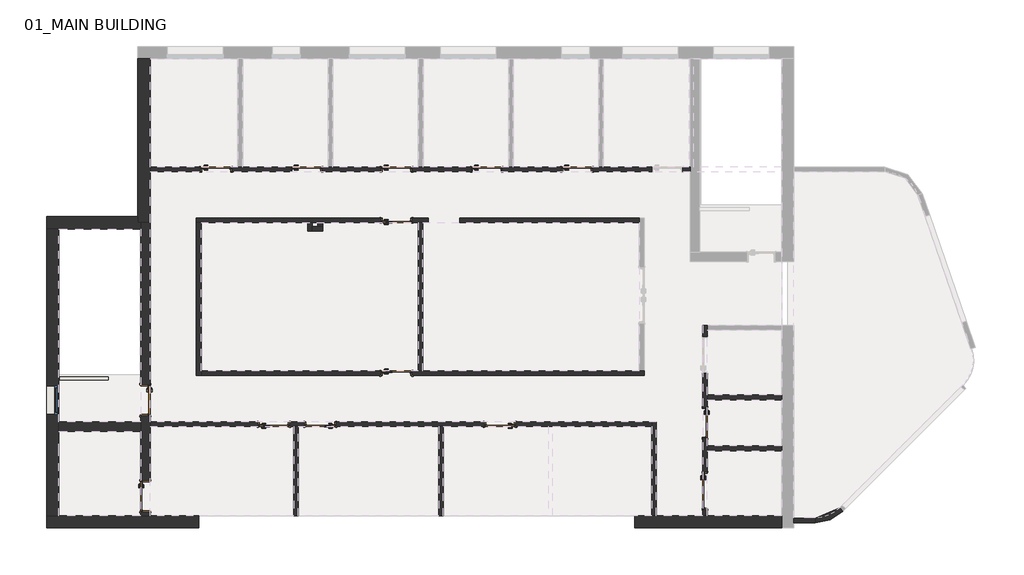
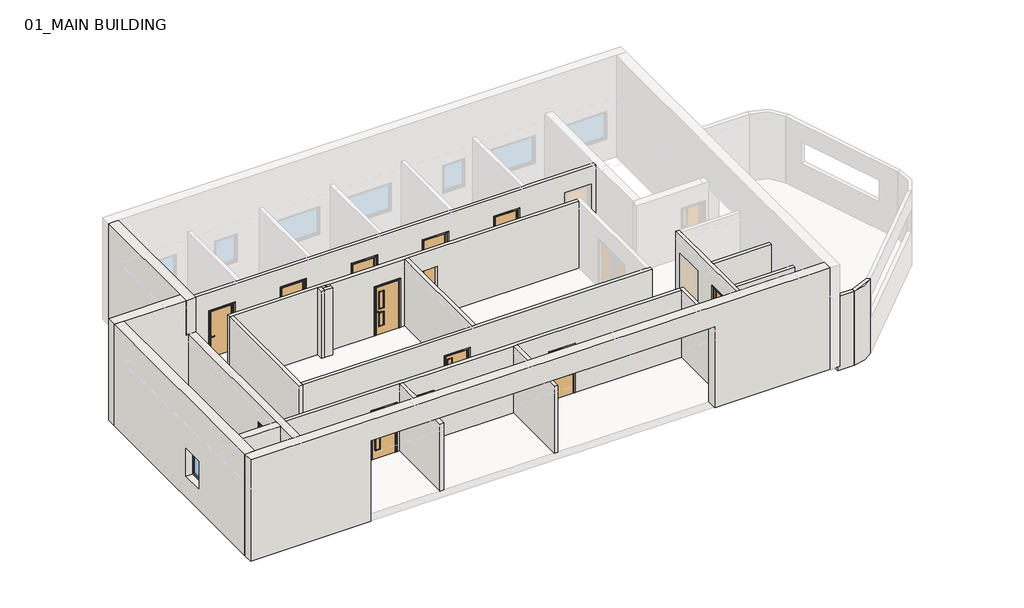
# One storey, part 1 of 2: 24 walls, 14 doors, 1 window.
"""IFC4 building model written with IfcOpenShell, lengths in millimetres."""

from ifc_helpers import new_model, si_unit, point, frame, frame_2d, origin, place, context, project, spatial, polyline, circle_curve, trimmed, segment, composite_curve, outline, extrude, faceted_brep, transform, mapped, element, save
from components import doors_intsgl_1_1010x2110mm_12a6edaf, doors_intsgl_1_1010x2110mm_5517da8e, doors_intsgl_1_1010x2110mm_5eebe40c, doors_intsgl_1_1200x2110mm_07b1b6db, doors_intsgl_3_1010x2110mm_4cc0f6b2, doors_intsgl_3_1010x2110mm_0dcaffd3, windows_concept_plain_sgl_910x1210mm_ef0b7ad2

model = new_model("IFC4")

# Units and contexts
model_context = context("Model", 3, world=origin())
ifc_project = project(units=[si_unit("LENGTHUNIT", "METRE", prefix="MILLI")], contexts=[model_context])

# Site, building, storey
site = spatial("IfcSite", under=ifc_project)
building = spatial("IfcBuilding", under=site)
storey = spatial("IfcBuildingStorey", under=building, Name="01_MAIN BUILDING", Elevation=4500.0)

# Doors
placement = place(None, origin())
doors_intsgl_1_1010x2110mm_shape = doors_intsgl_1_1010x2110mm_12a6edaf(model_context)
element("IfcDoor", 1, ObjectType="Doors_IntSgl_1 : 1010x2110mm", at=placement, inside=storey, context=model_context, shape_type="MappedRepresentation", body=[
    mapped(doors_intsgl_1_1010x2110mm_shape, transform((427458.8921169, -385124.0026386, 4500.0), x_axis=(1.0, 0.0, 0.0), y_axis=(0.0, 1.0, 0.0), z_axis=(0.0, 0.0, 1.0))),
])
element("IfcDoor", 2, ObjectType="Doors_IntSgl_1 : 1010x2110mm", at=placement, inside=storey, context=model_context, shape_type="MappedRepresentation", body=[
    mapped(doors_intsgl_1_1010x2110mm_shape, transform((430375.4635455, -385124.0026386, 4500.0), x_axis=(1.0, 0.0, 0.0), y_axis=(0.0, 1.0, 0.0), z_axis=(0.0, 0.0, 1.0))),
])
element("IfcDoor", 3, ObjectType="Doors_IntSgl_1 : 1010x2110mm", at=placement, inside=storey, context=model_context, shape_type="MappedRepresentation", body=[
    mapped(doors_intsgl_1_1010x2110mm_shape, transform((433292.034974, -385124.0026386, 4500.0), x_axis=(1.0, 0.0, 0.0), y_axis=(0.0, 1.0, 0.0), z_axis=(0.0, 0.0, 1.0))),
])
element("IfcDoor", 4, ObjectType="Doors_IntSgl_1 : 1010x2110mm", at=placement, inside=storey, context=model_context, shape_type="MappedRepresentation", body=[
    mapped(doors_intsgl_1_1010x2110mm_shape, transform((436208.6064026, -385124.0026386, 4500.0), x_axis=(1.0, 0.0, 0.0), y_axis=(0.0, 1.0, 0.0), z_axis=(0.0, 0.0, 1.0))),
])
element("IfcDoor", 5, ObjectType="Doors_IntSgl_1 : 1010x2110mm", at=placement, inside=storey, context=model_context, shape_type="MappedRepresentation", body=[
    mapped(doors_intsgl_1_1010x2110mm_shape, transform((439125.1778312, -385124.0026386, 4500.0), x_axis=(1.0, 0.0, 0.0), y_axis=(0.0, 1.0, 0.0), z_axis=(0.0, 0.0, 1.0))),
])
element("IfcDoor", 6, ObjectType="Doors_IntSgl_1 : 1010x2110mm", at=placement, inside=storey, context=model_context, shape_type="MappedRepresentation", body=[
    mapped(doors_intsgl_1_1010x2110mm_shape, transform((443263.3206883, -393328.0026386, 4500.0), x_axis=(0.0, -1.0, 0.0), y_axis=(1.0, 0.0, 0.0), z_axis=(0.0, 0.0, 1.0))),
])
element("IfcDoor", 7, ObjectType="Doors_IntSgl_1 : 1010x2110mm", at=placement, inside=storey, context=model_context, shape_type="MappedRepresentation", body=[
    mapped(doors_intsgl_1_1010x2110mm_shape, transform((436633.3206883, -393374.0026386, 4500.0), x_axis=(-1.0, 0.0, 0.0), y_axis=(0.0, -1.0, 0.0), z_axis=(0.0, 0.0, 1.0))),
])
doors_intsgl_1_1010x2110mm_2_shape = doors_intsgl_1_1010x2110mm_5517da8e(model_context)
element("IfcDoor", 8, ObjectType="Doors_IntSgl_1 : 1010x2110mm", at=placement, inside=storey, context=model_context, shape_type="MappedRepresentation", body=[
    mapped(doors_intsgl_1_1010x2110mm_2_shape, transform((425167.3206883, -392594.0026386, 4500.0), x_axis=(0.0, -1.0, 0.0), y_axis=(1.0, 0.0, 0.0), z_axis=(0.0, 0.0, 1.0))),
])
doors_intsgl_1_1010x2110mm_3_shape = doors_intsgl_1_1010x2110mm_5eebe40c(model_context)
element("IfcDoor", 9, ObjectType="Doors_IntSgl_1 : 1010x2110mm", at=placement, inside=storey, context=model_context, shape_type="MappedRepresentation", body=[
    mapped(doors_intsgl_1_1010x2110mm_3_shape, transform((425167.3206883, -395704.0026386, 4500.0), x_axis=(0.0, -1.0, 0.0), y_axis=(1.0, 0.0, 0.0), z_axis=(0.0, 0.0, 1.0))),
])
doors_intsgl_1_1200x2110mm_shape = doors_intsgl_1_1200x2110mm_07b1b6db(model_context)
element("IfcDoor", 10, ObjectType="Doors_IntSgl_1 : 1200x2110mm", at=placement, inside=storey, context=model_context, shape_type="MappedRepresentation", body=[
    mapped(doors_intsgl_1_1200x2110mm_shape, transform((443263.3206883, -395528.0026386, 4500.0), x_axis=(0.0, -1.0, 0.0), y_axis=(1.0, 0.0, 0.0), z_axis=(0.0, 0.0, 1.0))),
])
doors_intsgl_3_1010x2110mm_shape = doors_intsgl_3_1010x2110mm_4cc0f6b2(model_context)
element("IfcDoor", 11, ObjectType="Doors_IntSgl_3 : 1010x2110mm", at=placement, inside=storey, context=model_context, shape_type="MappedRepresentation", body=[
    mapped(doors_intsgl_3_1010x2110mm_shape, transform((430824.5429107, -393374.0026386, 4500.0), x_axis=(-1.0, 0.0, 0.0), y_axis=(0.0, -1.0, 0.0), z_axis=(0.0, 0.0, 1.0))),
])
doors_intsgl_3_1010x2110mm_2_shape = doors_intsgl_3_1010x2110mm_0dcaffd3(model_context)
element("IfcDoor", 12, ObjectType="Doors_IntSgl_3 : 1010x2110mm", at=placement, inside=storey, context=model_context, shape_type="MappedRepresentation", body=[
    mapped(doors_intsgl_3_1010x2110mm_2_shape, transform((429323.3206883, -393374.0026386, 4500.0), x_axis=(1.0, 0.0, 0.0), y_axis=(0.0, 1.0, 0.0), z_axis=(0.0, 0.0, 1.0))),
])
element("IfcDoor", 13, ObjectType="Doors_IntSgl_3 : 1010x2110mm", at=placement, inside=storey, context=model_context, shape_type="MappedRepresentation", body=[
    mapped(doors_intsgl_3_1010x2110mm_2_shape, transform((433287.3206883, -386774.0026386, 4500.0), x_axis=(1.0, 0.0, 0.0), y_axis=(0.0, 1.0, 0.0), z_axis=(0.0, 0.0, 1.0))),
])
element("IfcDoor", 14, ObjectType="Doors_IntSgl_3 : 1010x2110mm", at=placement, inside=storey, context=model_context, shape_type="MappedRepresentation", body=[
    mapped(doors_intsgl_3_1010x2110mm_shape, transform((433287.3206883, -391724.0026386, 4500.0), x_axis=(1.0, 0.0, 0.0), y_axis=(0.0, 1.0, 0.0), z_axis=(0.0, 0.0, 1.0))),
])

# Walls
element("IfcWall", 15, ObjectType="Wall_Exterior_WSUK", at=placement, inside=storey, context=model_context, shape_type="Brep", body=[
    faceted_brep([(421974.3206883, -396328.0026386, 8900.0), (422376.3206883, -396328.0026386, 8900.0), (445738.3206883, -396328.0026386, 8900.0), (445738.3206883, -396328.0026386, 4500.0), (443338.3206883, -396328.0026386, 4500.0), (443188.3206883, -396328.0026386, 4500.0), (441688.3206883, -396328.0026386, 4500.0), (441538.3206883, -396328.0026386, 4500.0), (440997.3206883, -396328.0026386, 4500.0), (440997.3206883, -396328.0026386, 8000.0), (426897.3206883, -396328.0026386, 8000.0), (426897.3206883, -396328.0026386, 4500.0), (425322.3206883, -396328.0026386, 4500.0), (425012.3206883, -396328.0026386, 4500.0), (422376.3206883, -396328.0026386, 4500.0), (421974.3206883, -396328.0026386, 4500.0), (445738.3206883, -396730.0026386, 8900.0), (421974.3206883, -396730.0026386, 8900.0), (421974.3206883, -396730.0026386, 4500.0), (426897.3206883, -396730.0026386, 4500.0), (426897.3206883, -396730.0026386, 8000.0), (440997.3206883, -396730.0026386, 8000.0), (440997.3206883, -396730.0026386, 4500.0), (445738.3206883, -396730.0026386, 4500.0)], [[[0, 1, 2, 3, 4, 5, 6, 7, 8, 9, 10, 11, 12, 13, 14, 15]], [[16, 17, 18, 19, 20, 21, 22, 23]], [[3, 23, 22, 8, 7, 6, 5, 4]], [[18, 15, 14, 13, 12, 11, 19]], [[2, 1, 0, 17, 16]], [[2, 16, 23, 3]], [[0, 15, 18, 17]], [[21, 9, 8, 22]], [[9, 21, 20, 10]], [[10, 20, 19, 11]]]),
])
element("IfcWall", 16, ObjectType="Wall_Exterior_WSUK", at=placement, inside=storey, context=model_context, shape_type="Brep", body=[
    faceted_brep([(424920.3206883, -381550.0026386, 8900.0), (424920.3206883, -381550.0026386, 4500.0), (424920.3206883, -386647.0026386, 4500.0), (424920.3206883, -386848.0026386, 4500.0), (424920.3206883, -386848.0026386, 7400.0), (424920.3206883, -387049.0026386, 7400.0), (424920.3206883, -387049.0026386, 8900.0), (424920.3206883, -386647.0026386, 8900.0), (425322.3206883, -381550.0026386, 4500.0), (425322.3206883, -381550.0026386, 8900.0), (425322.3206883, -387049.0026386, 8900.0), (425322.3206883, -387049.0026386, 7400.0), (425322.3206883, -386848.0026386, 7400.0), (425322.3206883, -386848.0026386, 4500.0), (425322.3206883, -385199.0026386, 4500.0), (425322.3206883, -385049.0026386, 4500.0), (425012.3206883, -381550.0026386, 4500.0), (425012.3206883, -386848.0026386, 4500.0), (425012.3206883, -386848.0026386, 7400.0), (425012.3206883, -387049.0026386, 7400.0)], [[[0, 1, 2, 3, 4, 5, 6, 7]], [[8, 9, 10, 11, 12, 13, 14, 15]], [[3, 2, 1, 16, 8, 15, 14, 13, 17]], [[0, 7, 6, 10, 9]], [[4, 3, 17, 13, 12, 18]], [[11, 19, 5, 4, 18, 12]], [[6, 5, 19, 11, 10]], [[0, 9, 8, 16, 1]]]),
])
element("IfcWall", 17, ObjectType="Wall_Exterior_WSUK", at=placement, inside=storey, context=model_context, shape_type="Brep", body=[
    faceted_brep([(424920.3206883, -386647.0026386, 4500.0), (421974.3206883, -386647.0026386, 4500.0), (421974.3206883, -386647.0026386, 8900.0), (424920.3206883, -386647.0026386, 8900.0), (424920.3206883, -386647.0026386, 7400.0), (425012.3206883, -387049.0026386, 4500.0), (425012.3206883, -387049.0026386, 7400.0), (424920.3206883, -387049.0026386, 7400.0), (424920.3206883, -387049.0026386, 8900.0), (422376.3206883, -387049.0026386, 8900.0), (421974.3206883, -387049.0026386, 8900.0), (421974.3206883, -387049.0026386, 4500.0), (422376.3206883, -387049.0026386, 4500.0), (424920.3206883, -386848.0026386, 4500.0), (425012.3206883, -386848.0026386, 4500.0), (424920.3206883, -386848.0026386, 7400.0), (425012.3206883, -386848.0026386, 7400.0)], [[[0, 1, 2, 3, 4]], [[5, 6, 7, 8, 9, 10, 11, 12]], [[1, 0, 13, 14, 5, 12, 11]], [[3, 2, 10, 9, 8]], [[2, 1, 11, 10]], [[15, 7, 6, 16]], [[0, 4, 15, 13]], [[15, 16, 14, 13]], [[16, 6, 5, 14]], [[4, 3, 8, 7, 15]]]),
])
element("IfcWall", 18, ObjectType="Wall_Exterior_WSUK", at=placement, inside=storey, context=model_context, shape_type="Brep", body=[
    faceted_brep([(421974.3206883, -387049.0026386, 4500.0), (421974.3206883, -396328.0026386, 4500.0), (421974.3206883, -396328.0026386, 8900.0), (421974.3206883, -387049.0026386, 8900.0), (421974.3206883, -392139.0026386, 6610.0), (421974.3206883, -393049.0026386, 6610.0), (421974.3206883, -393049.0026386, 5400.0), (421974.3206883, -392139.0026386, 5400.0), (422376.3206883, -387049.0026386, 4500.0), (422376.3206883, -387049.0026386, 8900.0), (422376.3206883, -396328.0026386, 8900.0), (422376.3206883, -396328.0026386, 4500.0), (422376.3206883, -393609.0026386, 4500.0), (422376.3206883, -393299.0026386, 4500.0), (422376.3206883, -392139.0026386, 6610.0), (422376.3206883, -392139.0026386, 5400.0), (422376.3206883, -393049.0026386, 5400.0), (422376.3206883, -393049.0026386, 6610.0)], [[[0, 1, 2, 3], [4, 5, 6, 7]], [[8, 9, 10, 11, 12, 13], [14, 15, 16, 17]], [[1, 0, 8, 13, 12, 11]], [[3, 2, 10, 9]], [[0, 3, 9, 8]], [[15, 14, 4, 7]], [[16, 15, 7, 6]], [[17, 16, 6, 5]], [[14, 17, 5, 4]], [[2, 1, 11, 10]]]),
])
element("IfcWall", 19, ObjectType="Wall_Interior_WSUK", at=placement, inside=storey, context=model_context, shape_type="Brep", body=[
    faceted_brep([(442792.3206883, -385199.0026386, 7400.0), (425322.3206883, -385199.0026386, 7400.0), (425322.3206883, -385199.0026386, 4500.0), (426953.8921169, -385199.0026386, 4500.0), (426953.8921169, -385199.0026386, 6610.0), (427963.8921169, -385199.0026386, 6610.0), (427963.8921169, -385199.0026386, 4500.0), (429870.4635455, -385199.0026386, 4500.0), (429870.4635455, -385199.0026386, 6610.0), (430880.4635455, -385199.0026386, 6610.0), (430880.4635455, -385199.0026386, 4500.0), (432787.034974, -385199.0026386, 4500.0), (432787.034974, -385199.0026386, 6610.0), (433797.034974, -385199.0026386, 6610.0), (433797.034974, -385199.0026386, 4500.0), (435703.6064026, -385199.0026386, 4500.0), (435703.6064026, -385199.0026386, 6610.0), (436713.6064026, -385199.0026386, 6610.0), (436713.6064026, -385199.0026386, 4500.0), (438620.1778312, -385199.0026386, 4500.0), (438620.1778312, -385199.0026386, 6610.0), (439630.1778312, -385199.0026386, 6610.0), (439630.1778312, -385199.0026386, 4500.0), (441536.7492598, -385199.0026386, 4500.0), (441536.7492598, -385199.0026386, 6610.0), (442546.7492598, -385199.0026386, 6610.0), (442546.7492598, -385199.0026386, 4500.0), (442792.3206883, -385199.0026386, 4500.0), (425322.3206883, -385049.0026386, 7400.0), (428163.8921169, -385049.0026386, 7400.0), (428313.8921169, -385049.0026386, 7400.0), (431080.4635455, -385049.0026386, 7400.0), (431230.4635455, -385049.0026386, 7400.0), (433997.034974, -385049.0026386, 7400.0), (434147.034974, -385049.0026386, 7400.0), (436913.6064026, -385049.0026386, 7400.0), (437063.6064026, -385049.0026386, 7400.0), (439830.1778312, -385049.0026386, 7400.0), (439980.1778312, -385049.0026386, 7400.0), (442792.3206883, -385049.0026386, 7400.0), (442792.3206883, -385049.0026386, 4500.0), (442546.7492598, -385049.0026386, 4500.0), (442546.7492598, -385049.0026386, 6610.0), (441536.7492598, -385049.0026386, 6610.0), (441536.7492598, -385049.0026386, 4500.0), (439980.1778312, -385049.0026386, 4500.0), (439830.1778312, -385049.0026386, 4500.0), (439630.1778312, -385049.0026386, 4500.0), (439630.1778312, -385049.0026386, 6610.0), (438620.1778312, -385049.0026386, 6610.0), (438620.1778312, -385049.0026386, 4500.0), (437063.6064026, -385049.0026386, 4500.0), (436913.6064026, -385049.0026386, 4500.0), (436713.6064026, -385049.0026386, 4500.0), (436713.6064026, -385049.0026386, 6610.0), (435703.6064026, -385049.0026386, 6610.0), (435703.6064026, -385049.0026386, 4500.0), (434147.034974, -385049.0026386, 4500.0), (433997.034974, -385049.0026386, 4500.0), (433797.034974, -385049.0026386, 4500.0), (433797.034974, -385049.0026386, 6610.0), (432787.034974, -385049.0026386, 6610.0), (432787.034974, -385049.0026386, 4500.0), (431230.4635455, -385049.0026386, 4500.0), (431080.4635455, -385049.0026386, 4500.0), (430880.4635455, -385049.0026386, 4500.0), (430880.4635455, -385049.0026386, 6610.0), (429870.4635455, -385049.0026386, 6610.0), (429870.4635455, -385049.0026386, 4500.0), (428313.8921169, -385049.0026386, 4500.0), (428163.8921169, -385049.0026386, 4500.0), (427963.8921169, -385049.0026386, 4500.0), (427963.8921169, -385049.0026386, 6610.0), (426953.8921169, -385049.0026386, 6610.0), (426953.8921169, -385049.0026386, 4500.0), (425322.3206883, -385049.0026386, 4500.0)], [[[0, 1, 2, 3, 4, 5, 6, 7, 8, 9, 10, 11, 12, 13, 14, 15, 16, 17, 18, 19, 20, 21, 22, 23, 24, 25, 26, 27]], [[28, 29, 30, 31, 32, 33, 34, 35, 36, 37, 38, 39, 40, 41, 42, 43, 44, 45, 46, 47, 48, 49, 50, 51, 52, 53, 54, 55, 56, 57, 58, 59, 60, 61, 62, 63, 64, 65, 66, 67, 68, 69, 70, 71, 72, 73, 74, 75]], [[3, 2, 75, 74]], [[6, 71, 70, 69, 68, 7]], [[10, 65, 64, 63, 62, 11]], [[14, 59, 58, 57, 56, 15]], [[18, 53, 52, 51, 50, 19]], [[22, 47, 46, 45, 44, 23]], [[40, 27, 26, 41]], [[1, 0, 39, 38, 37, 36, 35, 34, 33, 32, 31, 30, 29, 28]], [[5, 72, 71, 6]], [[72, 5, 4, 73]], [[73, 4, 3, 74]], [[9, 66, 65, 10]], [[66, 9, 8, 67]], [[67, 8, 7, 68]], [[13, 60, 59, 14]], [[60, 13, 12, 61]], [[61, 12, 11, 62]], [[17, 54, 53, 18]], [[54, 17, 16, 55]], [[55, 16, 15, 56]], [[21, 48, 47, 22]], [[48, 21, 20, 49]], [[49, 20, 19, 50]], [[2, 1, 28, 75]], [[25, 42, 41, 26]], [[42, 25, 24, 43]], [[43, 24, 23, 44]], [[0, 27, 40, 39]]]),
])
element("IfcWall", 20, ObjectType="Wall_Interior_WSUK", at=placement, inside=storey, context=model_context, shape_type="Brep", body=[
    faceted_brep([(443188.3206883, -396328.0026386, 7400.0), (443188.3206883, -390178.0026386, 7400.0), (443188.3206883, -390178.0026386, 4500.0), (443188.3206883, -390528.0026386, 4500.0), (443188.3206883, -390528.0026386, 6610.0), (443188.3206883, -391728.0026386, 6610.0), (443188.3206883, -391728.0026386, 4500.0), (443188.3206883, -392823.0026386, 4500.0), (443188.3206883, -392823.0026386, 6610.0), (443188.3206883, -393833.0026386, 6610.0), (443188.3206883, -393833.0026386, 4500.0), (443188.3206883, -394928.0026386, 4500.0), (443188.3206883, -394928.0026386, 6610.0), (443188.3206883, -396128.0026386, 6610.0), (443188.3206883, -396128.0026386, 4500.0), (443188.3206883, -396328.0026386, 4500.0), (443338.3206883, -390178.0026386, 7400.0), (443338.3206883, -390328.0026386, 7400.0), (443338.3206883, -392428.0026386, 7400.0), (443338.3206883, -392578.0026386, 7400.0), (443338.3206883, -394078.0026386, 7400.0), (443338.3206883, -394228.0026386, 7400.0), (443338.3206883, -396328.0026386, 7400.0), (443338.3206883, -396328.0026386, 4500.0), (443338.3206883, -396128.0026386, 4500.0), (443338.3206883, -396128.0026386, 6610.0), (443338.3206883, -394928.0026386, 6610.0), (443338.3206883, -394928.0026386, 4500.0), (443338.3206883, -394228.0026386, 4500.0), (443338.3206883, -394078.0026386, 4500.0), (443338.3206883, -393833.0026386, 4500.0), (443338.3206883, -393833.0026386, 6610.0), (443338.3206883, -392823.0026386, 6610.0), (443338.3206883, -392823.0026386, 4500.0), (443338.3206883, -392578.0026386, 4500.0), (443338.3206883, -392428.0026386, 4500.0), (443338.3206883, -391728.0026386, 4500.0), (443338.3206883, -391728.0026386, 6610.0), (443338.3206883, -390528.0026386, 6610.0), (443338.3206883, -390528.0026386, 4500.0), (443338.3206883, -390328.0026386, 4500.0), (443338.3206883, -390178.0026386, 4500.0)], [[[0, 1, 2, 3, 4, 5, 6, 7, 8, 9, 10, 11, 12, 13, 14, 15]], [[16, 17, 18, 19, 20, 21, 22, 23, 24, 25, 26, 27, 28, 29, 30, 31, 32, 33, 34, 35, 36, 37, 38, 39, 40, 41]], [[2, 41, 40, 39, 3]], [[23, 15, 14, 24]], [[6, 36, 35, 34, 33, 7]], [[10, 30, 29, 28, 27, 11]], [[1, 0, 22, 21, 20, 19, 18, 17, 16]], [[2, 1, 16, 41]], [[0, 15, 23, 22]], [[38, 4, 3, 39]], [[4, 38, 37, 5]], [[5, 37, 36, 6]], [[9, 31, 30, 10]], [[31, 9, 8, 32]], [[32, 8, 7, 33]], [[13, 25, 24, 14]], [[25, 13, 12, 26]], [[26, 12, 11, 27]]]),
])
element("IfcWall", 21, ObjectType="Wall_Interior_WSUK", at=placement, inside=storey, context=model_context, shape_type="SweptSolid", body=[
    extrude(outline(polyline([(445738.3206883, -394228.0026386), (443338.3206883, -394228.0026386), (443338.3206883, -394078.0026386), (445738.3206883, -394078.0026386), (445738.3206883, -394228.0026386)])), frame((0.0, 0.0, 4500.0), z_axis=(0.0, 0.0, 1.0), x_axis=(1.0, 0.0, 0.0)), (0.0, 0.0, 1.0), 2900.0),
])
element("IfcWall", 22, ObjectType="Wall_Interior_WSUK", at=placement, inside=storey, context=model_context, shape_type="SweptSolid", body=[
    extrude(outline(polyline([(445738.3206883, -392578.0026386), (443338.3206883, -392578.0026386), (443338.3206883, -392428.0026386), (445738.3206883, -392428.0026386), (445738.3206883, -392578.0026386)])), frame((0.0, 0.0, 4500.0), z_axis=(0.0, 0.0, 1.0), x_axis=(1.0, 0.0, 0.0)), (0.0, 0.0, 1.0), 2900.0),
])
element("IfcWall", 23, ObjectType="Wall_Interior_WSUK", at=placement, inside=storey, context=model_context, shape_type="Brep", body=[
    faceted_brep([(441538.3206883, -393449.0026386, 7400.0), (434802.8762438, -393449.0026386, 7400.0), (434652.8762438, -393449.0026386, 7400.0), (430119.5429107, -393449.0026386, 7400.0), (429969.5429107, -393449.0026386, 7400.0), (425322.3206883, -393449.0026386, 7400.0), (425322.3206883, -393449.0026386, 4500.0), (428818.3206883, -393449.0026386, 4500.0), (428818.3206883, -393449.0026386, 6610.0), (429828.3206883, -393449.0026386, 6610.0), (429828.3206883, -393449.0026386, 4500.0), (429969.5429107, -393449.0026386, 4500.0), (430119.5429107, -393449.0026386, 4500.0), (430319.5429107, -393449.0026386, 4500.0), (430319.5429107, -393449.0026386, 6610.0), (431329.5429107, -393449.0026386, 6610.0), (431329.5429107, -393449.0026386, 4500.0), (434652.8762438, -393449.0026386, 4500.0), (434802.8762438, -393449.0026386, 4500.0), (436128.3206883, -393449.0026386, 4500.0), (436128.3206883, -393449.0026386, 6610.0), (437138.3206883, -393449.0026386, 6610.0), (437138.3206883, -393449.0026386, 4500.0), (441538.3206883, -393449.0026386, 4500.0), (425322.3206883, -393299.0026386, 7400.0), (441538.3206883, -393299.0026386, 7400.0), (441538.3206883, -393299.0026386, 4500.0), (437138.3206883, -393299.0026386, 4500.0), (437138.3206883, -393299.0026386, 6610.0), (436128.3206883, -393299.0026386, 6610.0), (436128.3206883, -393299.0026386, 4500.0), (431329.5429107, -393299.0026386, 4500.0), (431329.5429107, -393299.0026386, 6610.0), (430319.5429107, -393299.0026386, 6610.0), (430319.5429107, -393299.0026386, 4500.0), (429828.3206883, -393299.0026386, 4500.0), (429828.3206883, -393299.0026386, 6610.0), (428818.3206883, -393299.0026386, 6610.0), (428818.3206883, -393299.0026386, 4500.0), (425322.3206883, -393299.0026386, 4500.0)], [[[0, 1, 2, 3, 4, 5, 6, 7, 8, 9, 10, 11, 12, 13, 14, 15, 16, 17, 18, 19, 20, 21, 22, 23]], [[24, 25, 26, 27, 28, 29, 30, 31, 32, 33, 34, 35, 36, 37, 38, 39]], [[26, 23, 22, 27]], [[30, 19, 18, 17, 16, 31]], [[34, 13, 12, 11, 10, 35]], [[6, 39, 38, 7]], [[5, 4, 3, 2, 1, 0, 25, 24]], [[0, 23, 26, 25]], [[29, 20, 19, 30]], [[20, 29, 28, 21]], [[21, 28, 27, 22]], [[33, 14, 13, 34]], [[14, 33, 32, 15]], [[15, 32, 31, 16]], [[9, 36, 35, 10]], [[36, 9, 8, 37]], [[37, 8, 7, 38]], [[6, 5, 24, 39]]]),
])
element("IfcWall", 24, ObjectType="Wall_Interior_WSUK", at=placement, inside=storey, context=model_context, shape_type="Brep", body=[
    faceted_brep([(441538.3206883, -393299.0026386, 4500.0), (441538.3206883, -393449.0026386, 4500.0), (441538.3206883, -396328.0026386, 4500.0), (441538.3206883, -396328.0026386, 7400.0), (441538.3206883, -393449.0026386, 7400.0), (441538.3206883, -393299.0026386, 7400.0), (441688.3206883, -393299.0026386, 4500.0), (441688.3206883, -393299.0026386, 7400.0), (441688.3206883, -396328.0026386, 7400.0), (441688.3206883, -396328.0026386, 4500.0)], [[[0, 1, 2, 3, 4, 5]], [[6, 7, 8, 9]], [[2, 1, 0, 6, 9]], [[5, 4, 3, 8, 7]], [[0, 5, 7, 6]], [[3, 2, 9, 8]]]),
])
element("IfcWall", 25, ObjectType="Wall_Interior_WSUK", at=placement, inside=storey, context=model_context, shape_type="SweptSolid", body=[
    extrude(outline(polyline([(429969.5429107, -396328.0026386), (429969.5429107, -393449.0026386), (430119.5429107, -393449.0026386), (430119.5429107, -396328.0026386), (429969.5429107, -396328.0026386)])), frame((0.0, 0.0, 4500.0), z_axis=(0.0, 0.0, 1.0), x_axis=(1.0, 0.0, 0.0)), (0.0, 0.0, 1.0), 2900.0),
])
element("IfcWall", 26, ObjectType="Wall_Interior_WSUK", at=placement, inside=storey, context=model_context, shape_type="SweptSolid", body=[
    extrude(outline(polyline([(434652.8762438, -396328.0026386), (434652.8762438, -393449.0026386), (434802.8762438, -393449.0026386), (434802.8762438, -396328.0026386), (434652.8762438, -396328.0026386)])), frame((0.0, 0.0, 4500.0), z_axis=(0.0, 0.0, 1.0), x_axis=(1.0, 0.0, 0.0)), (0.0, 0.0, 1.0), 2900.0),
])
element("IfcWall", 27, ObjectType="Wall_Interior_WSUK", at=placement, inside=storey, context=model_context, shape_type="Brep", body=[
    faceted_brep([(441142.3206883, -386849.0026386, 7400.0), (434142.3206883, -386849.0026386, 7400.0), (433992.3206883, -386849.0026386, 7400.0), (430898.3206883, -386849.0026386, 7400.0), (430748.3206883, -386849.0026386, 7400.0), (430568.3206883, -386849.0026386, 7400.0), (430418.3206883, -386849.0026386, 7400.0), (426972.3206883, -386849.0026386, 7400.0), (426822.3206883, -386849.0026386, 7400.0), (426822.3206883, -386849.0026386, 4500.0), (426972.3206883, -386849.0026386, 4500.0), (430418.3206883, -386849.0026386, 4500.0), (430568.3206883, -386849.0026386, 4500.0), (430748.3206883, -386849.0026386, 4500.0), (430898.3206883, -386849.0026386, 4500.0), (432782.3206883, -386849.0026386, 4500.0), (432782.3206883, -386849.0026386, 6610.0), (433792.3206883, -386849.0026386, 6610.0), (433792.3206883, -386849.0026386, 4500.0), (433992.3206883, -386849.0026386, 4500.0), (434142.3206883, -386849.0026386, 4500.0), (434322.3206883, -386849.0026386, 4500.0), (434322.3206883, -386849.0026386, 6610.0), (435332.3206883, -386849.0026386, 6610.0), (435332.3206883, -386849.0026386, 4500.0), (441142.3206883, -386849.0026386, 4500.0), (426822.3206883, -386699.0026386, 7400.0), (441142.3206883, -386699.0026386, 7400.0), (441142.3206883, -386699.0026386, 4500.0), (435332.3206883, -386699.0026386, 4500.0), (435332.3206883, -386699.0026386, 6610.0), (434322.3206883, -386699.0026386, 6610.0), (434322.3206883, -386699.0026386, 4500.0), (433792.3206883, -386699.0026386, 4500.0), (433792.3206883, -386699.0026386, 6610.0), (432782.3206883, -386699.0026386, 6610.0), (432782.3206883, -386699.0026386, 4500.0), (426822.3206883, -386699.0026386, 4500.0)], [[[0, 1, 2, 3, 4, 5, 6, 7, 8, 9, 10, 11, 12, 13, 14, 15, 16, 17, 18, 19, 20, 21, 22, 23, 24, 25]], [[26, 27, 28, 29, 30, 31, 32, 33, 34, 35, 36, 37]], [[9, 37, 36, 15, 14, 13, 12, 11, 10]], [[28, 25, 24, 29]], [[18, 33, 32, 21, 20, 19]], [[8, 7, 6, 5, 4, 3, 2, 1, 0, 27, 26]], [[9, 8, 26, 37]], [[0, 25, 28, 27]], [[18, 17, 34, 33]], [[17, 16, 35, 34]], [[16, 15, 36, 35]], [[31, 22, 21, 32]], [[22, 31, 30, 23]], [[23, 30, 29, 24]]]),
])
element("IfcWall", 28, ObjectType="Wall_Interior_WSUK", at=placement, inside=storey, context=model_context, shape_type="Brep", body=[
    faceted_brep([(426972.3206883, -391799.0026386, 4500.0), (426972.3206883, -391649.0026386, 4500.0), (426972.3206883, -386849.0026386, 4500.0), (426972.3206883, -386849.0026386, 7400.0), (426972.3206883, -391649.0026386, 7400.0), (426972.3206883, -391799.0026386, 7400.0), (426822.3206883, -391799.0026386, 4500.0), (426822.3206883, -391799.0026386, 7400.0), (426822.3206883, -386849.0026386, 7400.0), (426822.3206883, -386849.0026386, 4500.0)], [[[0, 1, 2, 3, 4, 5]], [[6, 7, 8, 9]], [[2, 1, 0, 6, 9]], [[5, 4, 3, 8, 7]], [[3, 2, 9, 8]], [[0, 5, 7, 6]]]),
])
element("IfcWall", 29, ObjectType="Wall_Interior_WSUK", at=placement, inside=storey, context=model_context, shape_type="SweptSolid", body=[
    extrude(outline(polyline([(433992.3206883, -391649.0026386), (433992.3206883, -386849.0026386), (434142.3206883, -386849.0026386), (434142.3206883, -391649.0026386), (433992.3206883, -391649.0026386)])), frame((0.0, 0.0, 4500.0), z_axis=(0.0, 0.0, 1.0), x_axis=(1.0, 0.0, 0.0)), (0.0, 0.0, 1.0), 2900.0),
])
element("IfcWall", 30, ObjectType="Wall_Interior_WSUK", at=placement, inside=storey, context=model_context, shape_type="Brep", body=[
    faceted_brep([(441292.3206883, -391799.0026386, 7400.0), (426972.3206883, -391799.0026386, 7400.0), (426972.3206883, -391799.0026386, 4500.0), (432782.3206883, -391799.0026386, 4500.0), (432782.3206883, -391799.0026386, 6610.0), (433792.3206883, -391799.0026386, 6610.0), (433792.3206883, -391799.0026386, 4500.0), (441292.3206883, -391799.0026386, 4500.0), (426972.3206883, -391649.0026386, 7400.0), (433992.3206883, -391649.0026386, 7400.0), (434142.3206883, -391649.0026386, 7400.0), (441142.3206883, -391649.0026386, 7400.0), (441292.3206883, -391649.0026386, 7400.0), (441292.3206883, -391649.0026386, 4500.0), (441142.3206883, -391649.0026386, 4500.0), (434142.3206883, -391649.0026386, 4500.0), (433992.3206883, -391649.0026386, 4500.0), (433792.3206883, -391649.0026386, 4500.0), (433792.3206883, -391649.0026386, 6610.0), (432782.3206883, -391649.0026386, 6610.0), (432782.3206883, -391649.0026386, 4500.0), (426972.3206883, -391649.0026386, 4500.0)], [[[0, 1, 2, 3, 4, 5, 6, 7]], [[8, 9, 10, 11, 12, 13, 14, 15, 16, 17, 18, 19, 20, 21]], [[2, 21, 20, 3]], [[13, 7, 6, 17, 16, 15, 14]], [[1, 0, 12, 11, 10, 9, 8]], [[2, 1, 8, 21]], [[0, 7, 13, 12]], [[5, 18, 17, 6]], [[18, 5, 4, 19]], [[19, 4, 3, 20]]]),
])
element("IfcWall", 31, ObjectType="Wall_Exterior_WSUK 2hr", at=placement, inside=storey, context=model_context, shape_type="Brep", body=[
    faceted_brep([(425012.3206883, -396328.0026386, 7400.0), (425012.3206883, -393609.0026386, 7400.0), (425012.3206883, -393299.0026386, 7400.0), (425012.3206883, -387049.0026386, 7400.0), (425012.3206883, -386848.0026386, 7400.0), (425012.3206883, -386848.0026386, 4500.0), (425012.3206883, -387049.0026386, 4500.0), (425012.3206883, -392089.0026386, 4500.0), (425012.3206883, -392089.0026386, 6610.0), (425012.3206883, -393099.0026386, 6610.0), (425012.3206883, -393099.0026386, 4500.0), (425012.3206883, -393299.0026386, 4500.0), (425012.3206883, -393609.0026386, 4500.0), (425012.3206883, -395199.0026386, 4500.0), (425012.3206883, -395199.0026386, 6610.0), (425012.3206883, -396209.0026386, 6610.0), (425012.3206883, -396209.0026386, 4500.0), (425012.3206883, -396328.0026386, 4500.0), (425322.3206883, -386848.0026386, 7400.0), (425322.3206883, -387049.0026386, 7400.0), (425322.3206883, -393299.0026386, 7400.0), (425322.3206883, -393449.0026386, 7400.0), (425322.3206883, -396328.0026386, 7400.0), (425322.3206883, -396328.0026386, 4500.0), (425322.3206883, -396209.0026386, 4500.0), (425322.3206883, -396209.0026386, 6610.0), (425322.3206883, -395199.0026386, 6610.0), (425322.3206883, -395199.0026386, 4500.0), (425322.3206883, -393449.0026386, 4500.0), (425322.3206883, -393299.0026386, 4500.0), (425322.3206883, -393099.0026386, 4500.0), (425322.3206883, -393099.0026386, 6610.0), (425322.3206883, -392089.0026386, 6610.0), (425322.3206883, -392089.0026386, 4500.0), (425322.3206883, -386848.0026386, 4500.0)], [[[0, 1, 2, 3, 4, 5, 6, 7, 8, 9, 10, 11, 12, 13, 14, 15, 16, 17]], [[18, 19, 20, 21, 22, 23, 24, 25, 26, 27, 28, 29, 30, 31, 32, 33, 34]], [[23, 17, 16, 24]], [[5, 34, 33, 7, 6]], [[10, 30, 29, 28, 27, 13, 12, 11]], [[4, 3, 2, 1, 0, 22, 21, 20, 19, 18]], [[5, 4, 18, 34]], [[0, 17, 23, 22]], [[9, 31, 30, 10]], [[31, 9, 8, 32]], [[32, 8, 7, 33]], [[15, 25, 24, 16]], [[25, 15, 14, 26]], [[26, 14, 13, 27]]]),
])
element("IfcWall", 32, ObjectType="Wall_Exterior_WSUK 2hr", at=placement, inside=storey, context=model_context, shape_type="SweptSolid", body=[
    extrude(outline(polyline([(422376.3206883, -393299.0026386), (425012.3206883, -393299.0026386), (425012.3206883, -393609.0026386), (422376.3206883, -393609.0026386), (422376.3206883, -393299.0026386)])), frame((0.0, 0.0, 4500.0), z_axis=(0.0, 0.0, 1.0), x_axis=(1.0, 0.0, 0.0)), (0.0, 0.0, 1.0), 2900.0),
])
element("IfcWall", 33, ObjectType="Wall_Interior_WSUK", at=placement, inside=storey, context=model_context, shape_type="SweptSolid", body=[
    extrude(outline(polyline([(446140.3206883, -396408.0026386), (446821.3938999, -396408.0026386), (446821.3938999, -396558.0026386), (446140.3206883, -396558.0026386), (446140.3206883, -396408.0026386)])), frame((0.0, 0.0, 4200.0), z_axis=(0.0, 0.0, 1.0), x_axis=(1.0, 0.0, 0.0)), (0.0, 0.0, 1.0), 3200.0),
])
element("IfcWall", 34, ObjectType="Wall_Interior_WSUK", at=placement, inside=storey, context=model_context, shape_type="SweptSolid", body=[
    extrude(outline(composite_curve([segment(polyline([(446821.3938999, -396558.0026386), (446821.3938999, -396408.0026386)]), True, "CONTINUOUS"), segment(trimmed(circle_curve(frame_2d((446821.3938999, -395283.0026386)), 1125.0), [point((446821.3938999, -396408.0026386))], [point((447616.8890287, -396078.4977674))], True, "CARTESIAN"), True, "CONTINUOUS"), segment(polyline([(447616.8890287, -396078.4977674), (447722.9550459, -396184.5637846)]), True, "CONTINUOUS"), segment(trimmed(circle_curve(frame_2d((446821.3938999, -395283.0026386)), 1275.0), [point((447722.9550459, -396184.5637846))], [point((446821.3938999, -396558.0026386))], False, "CARTESIAN"), True, "CONTINUOUS")], self_intersect=False)), frame((0.0, 0.0, 4200.0), z_axis=(0.0, 0.0, 1.0), x_axis=(1.0, 0.0, 0.0)), (0.0, 0.0, 1.0), 3200.0),
])
element("IfcWall", 35, ObjectType="Architectural Column Framing", at=placement, inside=storey, context=model_context, shape_type="Brep", body=[
    faceted_brep([(430418.3206883, -386849.0026386, 4500.0), (430418.3206883, -387120.2026386, 4500.0), (430418.3206883, -387120.2026386, 7400.0), (430418.3206883, -386849.0026386, 7400.0), (430568.3206883, -386849.0026386, 4500.0), (430568.3206883, -386849.0026386, 7400.0), (430568.3206883, -386970.2026386, 7400.0), (430568.3206883, -387120.2026386, 7400.0), (430568.3206883, -387120.2026386, 4500.0), (430568.3206883, -386970.2026386, 4500.0)], [[[0, 1, 2, 3]], [[4, 5, 6, 7, 8, 9]], [[1, 0, 4, 9, 8]], [[3, 2, 7, 6, 5]], [[0, 3, 5, 4]], [[2, 1, 8, 7]]]),
])
element("IfcWall", 36, ObjectType="Architectural Column Framing", at=placement, inside=storey, context=model_context, shape_type="Brep", body=[
    faceted_brep([(430568.3206883, -387120.2026386, 4500.0), (430898.3206883, -387120.2026386, 4500.0), (430898.3206883, -387120.2026386, 7400.0), (430568.3206883, -387120.2026386, 7400.0), (430568.3206883, -386970.2026386, 4500.0), (430568.3206883, -386970.2026386, 7400.0), (430748.3206883, -386970.2026386, 7400.0), (430898.3206883, -386970.2026386, 7400.0), (430898.3206883, -386970.2026386, 4500.0), (430748.3206883, -386970.2026386, 4500.0)], [[[0, 1, 2, 3]], [[4, 5, 6, 7, 8, 9]], [[1, 0, 4, 9, 8]], [[3, 2, 7, 6, 5]], [[0, 3, 5, 4]], [[2, 1, 8, 7]]]),
])
element("IfcWall", 37, ObjectType="Architectural Column Framing", at=placement, inside=storey, context=model_context, shape_type="SweptSolid", body=[
    extrude(outline(polyline([(430898.3206883, -386849.0026386), (430898.3206883, -386970.2026386), (430748.3206883, -386970.2026386), (430748.3206883, -386849.0026386), (430898.3206883, -386849.0026386)])), frame((0.0, 0.0, 4500.0), z_axis=(0.0, 0.0, 1.0), x_axis=(1.0, 0.0, 0.0)), (0.0, 0.0, 1.0), 2900.0),
])
element("IfcWall", 38, ObjectType="Wall_Interior_Generic", at=placement, inside=storey, context=model_context, shape_type="SweptSolid", body=[
    extrude(outline(polyline([(423962.3206883, -391934.0026386), (422401.3206883, -391934.0026386), (422401.3206883, -391834.0026386), (423962.3206883, -391834.0026386), (423962.3206883, -391934.0026386)])), frame((0.0, 0.0, 4500.0), z_axis=(0.0, 0.0, 1.0), x_axis=(1.0, 0.0, 0.0)), (0.0, 0.0, 1.0), 1200.0),
])

# Window
windows_concept_plain_sgl_910x1210mm_shape = windows_concept_plain_sgl_910x1210mm_ef0b7ad2(model_context)
element("IfcWindow", 39, ObjectType="Windows_Concept_Plain_Sgl : 910x1210mm", at=placement, inside=storey, context=model_context, shape_type="MappedRepresentation", body=[
    mapped(windows_concept_plain_sgl_910x1210mm_shape, transform((422166.8641205, -392594.0026386, 4500.0), x_axis=(0.0, -1.0, 0.0), y_axis=(1.0, 0.0, 0.0), z_axis=(0.0, 0.0, 1.0))),
])

save(model, "model.ifc")
